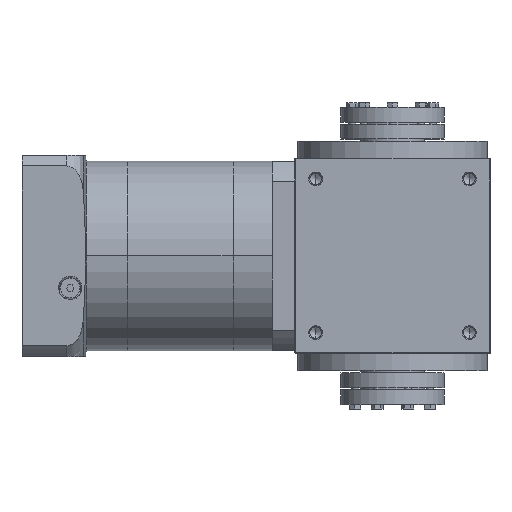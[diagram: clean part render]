
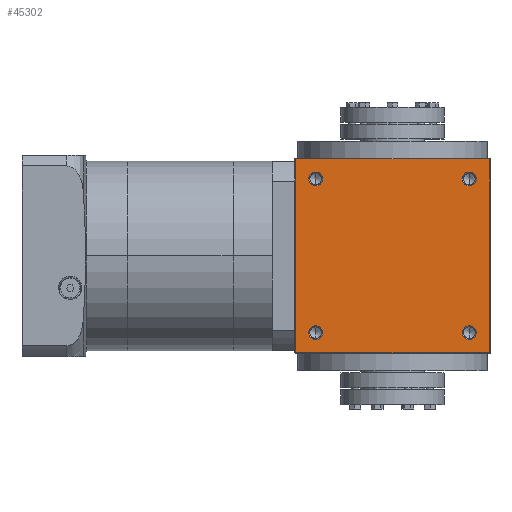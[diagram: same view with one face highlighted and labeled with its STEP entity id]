
A CAD part, top view. The second image highlights one B-rep face of the part: STEP entity #45302.
In plain terms, the highlighted planar face has unit normal (0, 0, 1) as drawn and (0, -1, 0) by its records, which use the part's own axes.
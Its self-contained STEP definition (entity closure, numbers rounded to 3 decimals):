
#2446 = CARTESIAN_POINT ( 'NONE',  ( -67., -85., 145.975 ) ) ;
#3125 = DIRECTION ( 'NONE',  ( 0., 0., -1. ) ) ;
#3933 = EDGE_LOOP ( 'NONE', ( #30923, #33978, #54816, #7832 ) ) ;
#4010 = FACE_BOUND ( 'NONE', #36879, .T. ) ;
#5019 = AXIS2_PLACEMENT_3D ( 'NONE', #10081, #10004, #9913 ) ;
#5334 = CIRCLE ( 'NONE', #19892, 6.025 ) ;
#7832 = ORIENTED_EDGE ( 'NONE', *, *, #48219, .F. ) ;
#8913 = EDGE_LOOP ( 'NONE', ( #11481, #28287 ) ) ;
#9598 = CARTESIAN_POINT ( 'NONE',  ( 67., -85., 24.025 ) ) ;
#9721 = EDGE_CURVE ( 'NONE', #26413, #31518, #44859, .T. ) ;
#9913 = DIRECTION ( 'NONE',  ( 0., 0., -1. ) ) ;
#10004 = DIRECTION ( 'NONE',  ( 0., -1., 0. ) ) ;
#10081 = CARTESIAN_POINT ( 'NONE',  ( -67., -85., 18. ) ) ;
#11481 = ORIENTED_EDGE ( 'NONE', *, *, #23971, .F. ) ;
#12890 = VERTEX_POINT ( 'NONE', #44322 ) ;
#12992 = PLANE ( 'NONE',  #41071 ) ;
#13300 = EDGE_CURVE ( 'NONE', #57733, #26983, #20727, .T. ) ;
#13444 = ORIENTED_EDGE ( 'NONE', *, *, #57035, .F. ) ;
#13728 = LINE ( 'NONE', #54754, #59974 ) ;
#14016 = CARTESIAN_POINT ( 'NONE',  ( 67., -85., 152. ) ) ;
#14282 = VERTEX_POINT ( 'NONE', #26659 ) ;
#15057 = EDGE_CURVE ( 'NONE', #57796, #14282, #48048, .T. ) ;
#15692 = AXIS2_PLACEMENT_3D ( 'NONE', #14016, #47392, #18851 ) ;
#16170 = CIRCLE ( 'NONE', #59896, 6.025 ) ;
#16543 = CARTESIAN_POINT ( 'NONE',  ( 67., -85., 18. ) ) ;
#16643 = VERTEX_POINT ( 'NONE', #2446 ) ;
#16924 = CARTESIAN_POINT ( 'NONE',  ( 84.5, -85., 169.5 ) ) ;
#17102 = EDGE_CURVE ( 'NONE', #52016, #27963, #38970, .T. ) ;
#17138 = FACE_BOUND ( 'NONE', #56297, .T. ) ;
#18248 = DIRECTION ( 'NONE',  ( 0., 0., 1. ) ) ;
#18389 = AXIS2_PLACEMENT_3D ( 'NONE', #60725, #32320, #3125 ) ;
#18851 = DIRECTION ( 'NONE',  ( 0., 0., -1. ) ) ;
#19892 = AXIS2_PLACEMENT_3D ( 'NONE', #21915, #55244, #26755 ) ;
#19950 = CARTESIAN_POINT ( 'NONE',  ( 67., -85., 11.975 ) ) ;
#20292 = VECTOR ( 'NONE', #49209, 1000. ) ;
#20380 = EDGE_CURVE ( 'NONE', #12890, #16643, #5334, .T. ) ;
#20398 = CARTESIAN_POINT ( 'NONE',  ( -84.5, -85., 169.5 ) ) ;
#20727 = CIRCLE ( 'NONE', #32511, 6.025 ) ;
#20914 = CARTESIAN_POINT ( 'NONE',  ( 84.5, -85., 170. ) ) ;
#21424 = DIRECTION ( 'NONE',  ( 0., 0., -1. ) ) ;
#21685 = CIRCLE ( 'NONE', #15692, 6.025 ) ;
#21915 = CARTESIAN_POINT ( 'NONE',  ( -67., -85., 152. ) ) ;
#22815 = VECTOR ( 'NONE', #61352, 1000. ) ;
#23714 = CARTESIAN_POINT ( 'NONE',  ( -67., -85., 152. ) ) ;
#23845 = ORIENTED_EDGE ( 'NONE', *, *, #9721, .F. ) ;
#23971 = EDGE_CURVE ( 'NONE', #30139, #32187, #27083, .T. ) ;
#24590 = AXIS2_PLACEMENT_3D ( 'NONE', #16543, #49919, #21424 ) ;
#26178 = DIRECTION ( 'NONE',  ( 0., -1., 0. ) ) ;
#26413 = VERTEX_POINT ( 'NONE', #35371 ) ;
#26659 = CARTESIAN_POINT ( 'NONE',  ( -84.5, -85., 0.5 ) ) ;
#26755 = DIRECTION ( 'NONE',  ( 0., 0., -1. ) ) ;
#26942 = DIRECTION ( 'NONE',  ( 0., -1., 0. ) ) ;
#26983 = VERTEX_POINT ( 'NONE', #19950 ) ;
#27083 = CIRCLE ( 'NONE', #18389, 6.025 ) ;
#27963 = VERTEX_POINT ( 'NONE', #16924 ) ;
#28287 = ORIENTED_EDGE ( 'NONE', *, *, #34427, .F. ) ;
#28567 = DIRECTION ( 'NONE',  ( 0., 0., -1. ) ) ;
#29980 = FACE_BOUND ( 'NONE', #8913, .T. ) ;
#30139 = VERTEX_POINT ( 'NONE', #56628 ) ;
#30923 = ORIENTED_EDGE ( 'NONE', *, *, #15057, .F. ) ;
#31211 = EDGE_CURVE ( 'NONE', #27963, #57796, #31570, .T. ) ;
#31518 = VERTEX_POINT ( 'NONE', #62260 ) ;
#31570 = LINE ( 'NONE', #20914, #20292 ) ;
#31848 = EDGE_CURVE ( 'NONE', #31518, #26413, #55306, .T. ) ;
#32187 = VERTEX_POINT ( 'NONE', #51676 ) ;
#32320 = DIRECTION ( 'NONE',  ( 0., -1., 0. ) ) ;
#32511 = AXIS2_PLACEMENT_3D ( 'NONE', #54683, #26178, #59406 ) ;
#32812 = CARTESIAN_POINT ( 'NONE',  ( -85., -85., 169.5 ) ) ;
#33978 = ORIENTED_EDGE ( 'NONE', *, *, #31211, .F. ) ;
#34427 = EDGE_CURVE ( 'NONE', #32187, #30139, #21685, .T. ) ;
#35371 = CARTESIAN_POINT ( 'NONE',  ( -67., -85., 11.975 ) ) ;
#35920 = DIRECTION ( 'NONE',  ( 0., 0., 1. ) ) ;
#36879 = EDGE_LOOP ( 'NONE', ( #23845, #58648 ) ) ;
#37449 = CARTESIAN_POINT ( 'NONE',  ( -85., -85., 170. ) ) ;
#37693 = DIRECTION ( 'NONE',  ( 1., 0., 0. ) ) ;
#38025 = CARTESIAN_POINT ( 'NONE',  ( -85., -85., 0.5 ) ) ;
#38970 = LINE ( 'NONE', #32812, #61133 ) ;
#40651 = ORIENTED_EDGE ( 'NONE', *, *, #20380, .F. ) ;
#41071 = AXIS2_PLACEMENT_3D ( 'NONE', #37449, #46794, #18248 ) ;
#41170 = FACE_OUTER_BOUND ( 'NONE', #3933, .T. ) ;
#44322 = CARTESIAN_POINT ( 'NONE',  ( -67., -85., 158.025 ) ) ;
#44859 = CIRCLE ( 'NONE', #5019, 6.025 ) ;
#45302 = ADVANCED_FACE ( 'NONE', ( #53715, #29980, #17138, #4010, #41170 ), #12992, .F. ) ;
#46794 = DIRECTION ( 'NONE',  ( 0., 1., 0. ) ) ;
#47392 = DIRECTION ( 'NONE',  ( 0., -1., 0. ) ) ;
#48048 = LINE ( 'NONE', #38025, #22815 ) ;
#48219 = EDGE_CURVE ( 'NONE', #14282, #52016, #13728, .T. ) ;
#49209 = DIRECTION ( 'NONE',  ( 0., 0., -1. ) ) ;
#49446 = EDGE_CURVE ( 'NONE', #26983, #57733, #55460, .T. ) ;
#49919 = DIRECTION ( 'NONE',  ( 0., -1., 0. ) ) ;
#50170 = ORIENTED_EDGE ( 'NONE', *, *, #49446, .F. ) ;
#50459 = AXIS2_PLACEMENT_3D ( 'NONE', #55429, #26942, #60140 ) ;
#51676 = CARTESIAN_POINT ( 'NONE',  ( 67., -85., 158.025 ) ) ;
#52016 = VERTEX_POINT ( 'NONE', #20398 ) ;
#53308 = EDGE_LOOP ( 'NONE', ( #13444, #40651 ) ) ;
#53715 = FACE_BOUND ( 'NONE', #53308, .T. ) ;
#54683 = CARTESIAN_POINT ( 'NONE',  ( 67., -85., 18. ) ) ;
#54754 = CARTESIAN_POINT ( 'NONE',  ( -84.5, -85., 170. ) ) ;
#54816 = ORIENTED_EDGE ( 'NONE', *, *, #17102, .F. ) ;
#55244 = DIRECTION ( 'NONE',  ( 0., -1., 0. ) ) ;
#55306 = CIRCLE ( 'NONE', #50459, 6.025 ) ;
#55429 = CARTESIAN_POINT ( 'NONE',  ( -67., -85., 18. ) ) ;
#55460 = CIRCLE ( 'NONE', #24590, 6.025 ) ;
#56297 = EDGE_LOOP ( 'NONE', ( #50170, #56390 ) ) ;
#56390 = ORIENTED_EDGE ( 'NONE', *, *, #13300, .F. ) ;
#56628 = CARTESIAN_POINT ( 'NONE',  ( 67., -85., 145.975 ) ) ;
#56983 = DIRECTION ( 'NONE',  ( 0., -1., 0. ) ) ;
#57035 = EDGE_CURVE ( 'NONE', #16643, #12890, #16170, .T. ) ;
#57733 = VERTEX_POINT ( 'NONE', #9598 ) ;
#57796 = VERTEX_POINT ( 'NONE', #58114 ) ;
#58114 = CARTESIAN_POINT ( 'NONE',  ( 84.5, -85., 0.5 ) ) ;
#58648 = ORIENTED_EDGE ( 'NONE', *, *, #31848, .F. ) ;
#59406 = DIRECTION ( 'NONE',  ( 0., 0., -1. ) ) ;
#59896 = AXIS2_PLACEMENT_3D ( 'NONE', #23714, #56983, #28567 ) ;
#59974 = VECTOR ( 'NONE', #35920, 1000. ) ;
#60140 = DIRECTION ( 'NONE',  ( 0., 0., -1. ) ) ;
#60725 = CARTESIAN_POINT ( 'NONE',  ( 67., -85., 152. ) ) ;
#61133 = VECTOR ( 'NONE', #37693, 1000. ) ;
#61352 = DIRECTION ( 'NONE',  ( -1., 0., 0. ) ) ;
#62260 = CARTESIAN_POINT ( 'NONE',  ( -67., -85., 24.025 ) ) ;
